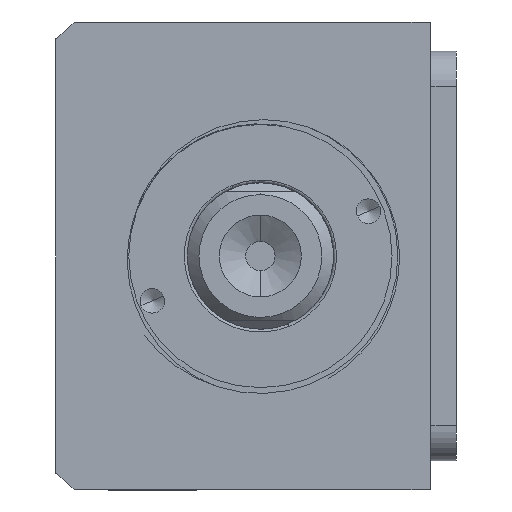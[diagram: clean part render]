
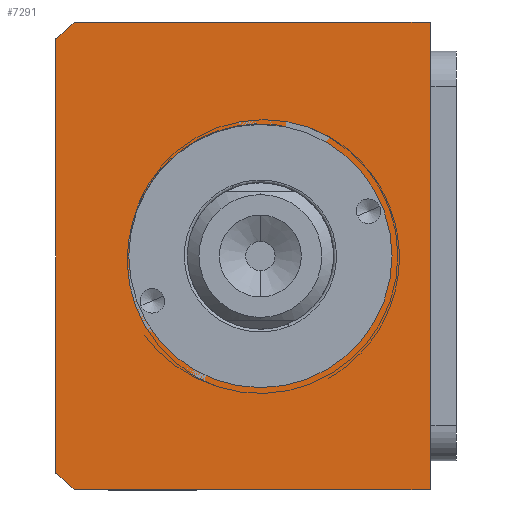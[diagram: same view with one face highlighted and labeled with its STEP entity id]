
A CAD part, front view. The second image highlights one B-rep face of the part: STEP entity #7291.
In plain terms, the highlighted planar face has unit normal (0, -1, 0) as drawn and (0, 0, 1) by its records, which use the part's own axes.
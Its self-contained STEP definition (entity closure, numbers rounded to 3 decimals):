
#198 = VECTOR ( 'NONE', #8907, 1000. ) ;
#239 = EDGE_CURVE ( 'NONE', #961, #5920, #1461, .T. ) ;
#243 = ORIENTED_EDGE ( 'NONE', *, *, #3442, .T. ) ;
#707 = CARTESIAN_POINT ( 'NONE',  ( 0., 3., 105. ) ) ;
#738 = DIRECTION ( 'NONE',  ( 0., 0., 1. ) ) ;
#957 = VECTOR ( 'NONE', #8777, 1000. ) ;
#961 = VERTEX_POINT ( 'NONE', #8558 ) ;
#1031 = CARTESIAN_POINT ( 'NONE',  ( -40., -28.639, 105. ) ) ;
#1217 = LINE ( 'NONE', #2457, #957 ) ;
#1319 = CARTESIAN_POINT ( 'NONE',  ( 40., -28.639, 105. ) ) ;
#1384 = PLANE ( 'NONE',  #5258 ) ;
#1461 = CIRCLE ( 'NONE', #7420, 22.5 ) ;
#1512 = EDGE_CURVE ( 'NONE', #5920, #961, #10310, .T. ) ;
#1641 = DIRECTION ( 'NONE',  ( 1., 0., 0. ) ) ;
#1661 = ORIENTED_EDGE ( 'NONE', *, *, #4098, .T. ) ;
#2169 = DIRECTION ( 'NONE',  ( 0., 0., 1. ) ) ;
#2312 = LINE ( 'NONE', #8536, #198 ) ;
#2457 = CARTESIAN_POINT ( 'NONE',  ( -40., 32., 105. ) ) ;
#2523 = CARTESIAN_POINT ( 'NONE',  ( 0., 3., 105. ) ) ;
#2655 = VECTOR ( 'NONE', #8858, 1000. ) ;
#3018 = ORIENTED_EDGE ( 'NONE', *, *, #1512, .F. ) ;
#3094 = DIRECTION ( 'NONE',  ( 0., 0., 1. ) ) ;
#3103 = EDGE_LOOP ( 'NONE', ( #3018, #9320 ) ) ;
#3235 = EDGE_CURVE ( 'NONE', #3890, #6006, #8297, .T. ) ;
#3288 = CARTESIAN_POINT ( 'NONE',  ( 40., 32., 105. ) ) ;
#3305 = CIRCLE ( 'NONE', #3543, 51. ) ;
#3331 = DIRECTION ( 'NONE',  ( 1., 0., 0. ) ) ;
#3441 = LINE ( 'NONE', #8547, #5313 ) ;
#3442 = EDGE_CURVE ( 'NONE', #3522, #10150, #3305, .T. ) ;
#3522 = VERTEX_POINT ( 'NONE', #1031 ) ;
#3543 = AXIS2_PLACEMENT_3D ( 'NONE', #2523, #8104, #3331 ) ;
#3890 = VERTEX_POINT ( 'NONE', #4690 ) ;
#3949 = DIRECTION ( 'NONE',  ( 0., 0., 1. ) ) ;
#4098 = EDGE_CURVE ( 'NONE', #9281, #3522, #1217, .T. ) ;
#4514 = LINE ( 'NONE', #3288, #2655 ) ;
#4690 = CARTESIAN_POINT ( 'NONE',  ( 37.094, -32., 105. ) ) ;
#4722 = ORIENTED_EDGE ( 'NONE', *, *, #9875, .T. ) ;
#5183 = VERTEX_POINT ( 'NONE', #7743 ) ;
#5258 = AXIS2_PLACEMENT_3D ( 'NONE', #8441, #2169, #7740 ) ;
#5313 = VECTOR ( 'NONE', #7753, 1000. ) ;
#5368 = ORIENTED_EDGE ( 'NONE', *, *, #3235, .T. ) ;
#5920 = VERTEX_POINT ( 'NONE', #9213 ) ;
#6006 = VERTEX_POINT ( 'NONE', #1319 ) ;
#6793 = ORIENTED_EDGE ( 'NONE', *, *, #9146, .T. ) ;
#7291 = ADVANCED_FACE ( 'NONE', ( #7908, #10053 ), #1384, .T. ) ;
#7420 = AXIS2_PLACEMENT_3D ( 'NONE', #707, #738, #1641 ) ;
#7632 = EDGE_LOOP ( 'NONE', ( #1661, #243, #6793, #5368, #9675, #4722 ) ) ;
#7740 = DIRECTION ( 'NONE',  ( 1., 0., 0. ) ) ;
#7743 = CARTESIAN_POINT ( 'NONE',  ( 40., 32., 105. ) ) ;
#7753 = DIRECTION ( 'NONE',  ( 1., 0., 0. ) ) ;
#7760 = AXIS2_PLACEMENT_3D ( 'NONE', #7873, #3094, #8667 ) ;
#7873 = CARTESIAN_POINT ( 'NONE',  ( 0., 3., 105. ) ) ;
#7908 = FACE_BOUND ( 'NONE', #3103, .T. ) ;
#8038 = EDGE_CURVE ( 'NONE', #6006, #5183, #4514, .T. ) ;
#8048 = CARTESIAN_POINT ( 'NONE',  ( -40., 32., 105. ) ) ;
#8104 = DIRECTION ( 'NONE',  ( 0., 0., 1. ) ) ;
#8297 = CIRCLE ( 'NONE', #9618, 51. ) ;
#8441 = CARTESIAN_POINT ( 'NONE',  ( 0., 0., 105. ) ) ;
#8536 = CARTESIAN_POINT ( 'NONE',  ( -40., 32., 105. ) ) ;
#8547 = CARTESIAN_POINT ( 'NONE',  ( -40., -32., 105. ) ) ;
#8558 = CARTESIAN_POINT ( 'NONE',  ( -22.5, 3., 105. ) ) ;
#8667 = DIRECTION ( 'NONE',  ( 1., 0., 0. ) ) ;
#8720 = CARTESIAN_POINT ( 'NONE',  ( 0., 3., 105. ) ) ;
#8777 = DIRECTION ( 'NONE',  ( 0., -1., 0. ) ) ;
#8858 = DIRECTION ( 'NONE',  ( 0., 1., 0. ) ) ;
#8907 = DIRECTION ( 'NONE',  ( -1., 0., 0. ) ) ;
#9146 = EDGE_CURVE ( 'NONE', #10150, #3890, #3441, .T. ) ;
#9213 = CARTESIAN_POINT ( 'NONE',  ( 22.5, 3., 105. ) ) ;
#9281 = VERTEX_POINT ( 'NONE', #8048 ) ;
#9320 = ORIENTED_EDGE ( 'NONE', *, *, #239, .F. ) ;
#9533 = DIRECTION ( 'NONE',  ( 1., 0., 0. ) ) ;
#9618 = AXIS2_PLACEMENT_3D ( 'NONE', #8720, #3949, #9533 ) ;
#9675 = ORIENTED_EDGE ( 'NONE', *, *, #8038, .T. ) ;
#9875 = EDGE_CURVE ( 'NONE', #5183, #9281, #2312, .T. ) ;
#10053 = FACE_OUTER_BOUND ( 'NONE', #7632, .T. ) ;
#10114 = CARTESIAN_POINT ( 'NONE',  ( -37.094, -32., 105. ) ) ;
#10150 = VERTEX_POINT ( 'NONE', #10114 ) ;
#10310 = CIRCLE ( 'NONE', #7760, 22.5 ) ;
